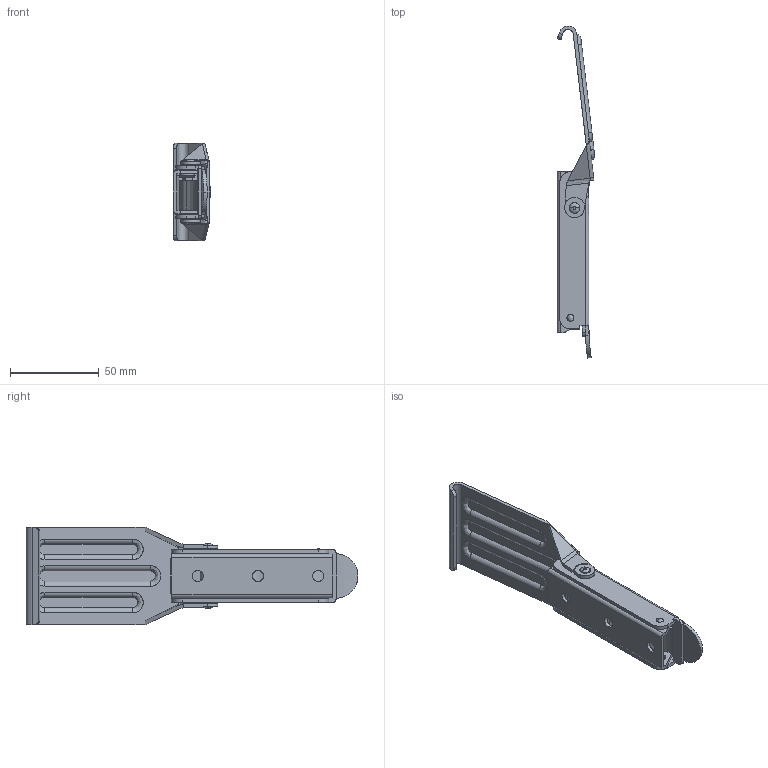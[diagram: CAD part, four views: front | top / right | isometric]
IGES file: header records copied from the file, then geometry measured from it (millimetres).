
Start section: SolidWorks IGES FILE using analytic representation for surfaces
Global section: file name: C:\Documents and Settings\lecoutey\Bureau\GP 48\GP 48.IGS; native system: SolidWorks 2004 by SolidWorks Corporation; preprocessor: Version 5.3; author: lecoutey; date: 050329.145417; units: millimetre
Bounding box: 21.01 x 187.42 x 55 mm (x, y, z)
Surface area: 40231.4 mm2 (no closed solid volume)
Topology: 0 solids, 0 shells, 285 faces, 4687 edges, 4686 vertices
Faces by surface type: bspline 152, revolution 133
